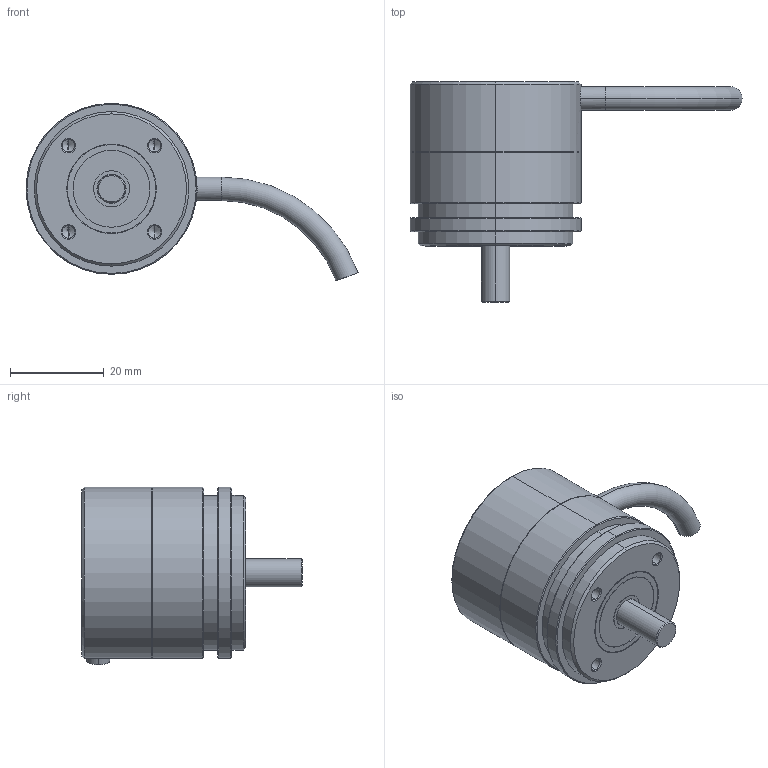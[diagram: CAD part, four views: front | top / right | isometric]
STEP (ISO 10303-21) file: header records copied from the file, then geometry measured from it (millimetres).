
FILE_DESCRIPTION (( 'STEP AP203' ), '1' );
FILE_NAME ('RE36IP53radial-3D.STEP', '2023-05-17T10:29:30', ( '' ), ( '' ), 'SwSTEP 2.0', 'SolidWorks 2022', '' );
FILE_SCHEMA (( 'CONFIG_CONTROL_DESIGN' ));
Length unit declared in the file: millimetre
Products named in the file (1): RE36IP53radial-3D
Bounding box: 70.83 x 47 x 37.86 mm (x, y, z)
Volume: 36405 mm3; surface area: 7405.5 mm2
Topology: 1 solids, 1 shells, 77 faces, 160 edges, 92 vertices
Faces by surface type: cylinder 32, cone 30, plane 13, torus 2
Entity records: 2125 total; most frequent: DIRECTION 394, CARTESIAN_POINT 384, ORIENTED_EDGE 304, AXIS2_PLACEMENT_3D 166, EDGE_CURVE 152, EDGE_LOOP 92, VERTEX_POINT 92, CIRCLE 88
